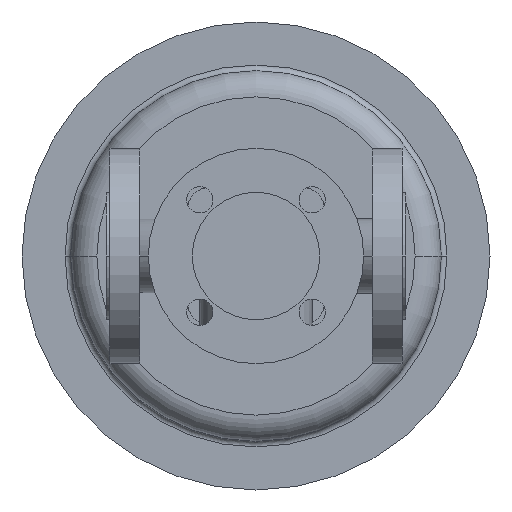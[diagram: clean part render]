
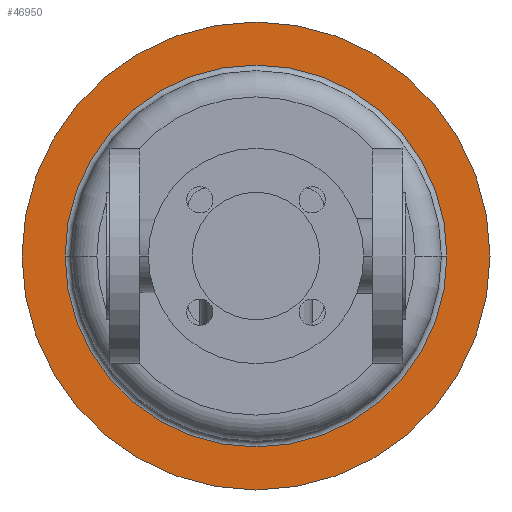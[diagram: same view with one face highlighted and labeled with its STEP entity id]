
A CAD part, front view. The second image highlights one B-rep face of the part: STEP entity #46950.
In plain terms, the highlighted planar face has unit normal (0, -1, 0).
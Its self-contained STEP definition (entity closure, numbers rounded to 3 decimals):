
#38070=CARTESIAN_POINT('',(205.,387.,0.));
#38080=VERTEX_POINT('',#38070);
#38110=CARTESIAN_POINT('',(80.,387.,0.));
#38120=DIRECTION('',(0.,1.,0.));
#38130=DIRECTION('',(1.,0.,0.));
#38140=AXIS2_PLACEMENT_3D('',#38110,#38120,#38130);
#38150=CIRCLE('',#38140,125.);
#38160=CARTESIAN_POINT('',(-45.,387.,0.));
#38170=VERTEX_POINT('',#38160);
#38180=EDGE_CURVE('',#38170,#38080,#38150,.T.);
#38500=CARTESIAN_POINT('',(182.,387.,0.));
#38510=VERTEX_POINT('',#38500);
#38680=CARTESIAN_POINT('',(-22.,387.,0.));
#38690=VERTEX_POINT('',#38680);
#38720=CARTESIAN_POINT('',(80.,387.,0.));
#38730=DIRECTION('',(0.,1.,0.));
#38740=DIRECTION('',(1.,0.,0.));
#38750=AXIS2_PLACEMENT_3D('',#38720,#38730,#38740);
#38760=CIRCLE('',#38750,102.);
#38770=EDGE_CURVE('',#38690,#38510,#38760,.T.);
#46800=CARTESIAN_POINT('',(193.5,387.,0.));
#46810=DIRECTION('',(0.,-1.,0.));
#46820=DIRECTION('',(-1.,0.,0.));
#46830=AXIS2_PLACEMENT_3D('',#46800,#46810,#46820);
#46840=PLANE('',#46830);
#46850=EDGE_CURVE('',#38080,#38170,#38150,.T.);
#46860=ORIENTED_EDGE('',*,*,#46850,.F.);
#46870=ORIENTED_EDGE('',*,*,#38180,.F.);
#46880=EDGE_LOOP('',(#46870,#46860));
#46890=FACE_OUTER_BOUND('',#46880,.T.);
#46900=EDGE_CURVE('',#38510,#38690,#38760,.T.);
#46910=ORIENTED_EDGE('',*,*,#46900,.T.);
#46920=ORIENTED_EDGE('',*,*,#38770,.T.);
#46930=EDGE_LOOP('',(#46920,#46910));
#46940=FACE_BOUND('',#46930,.T.);
#46950=ADVANCED_FACE('',(#46890,#46940),#46840,.T.);
